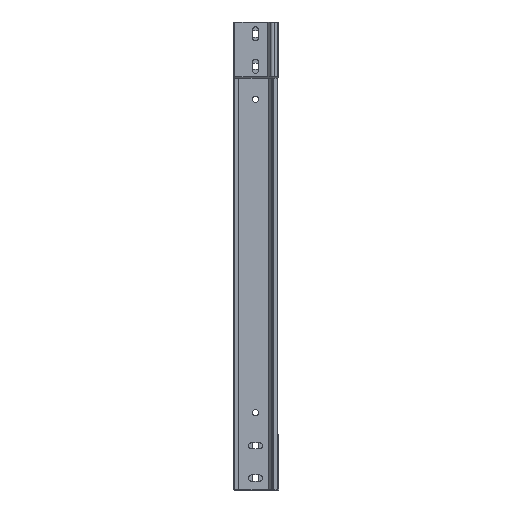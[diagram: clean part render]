
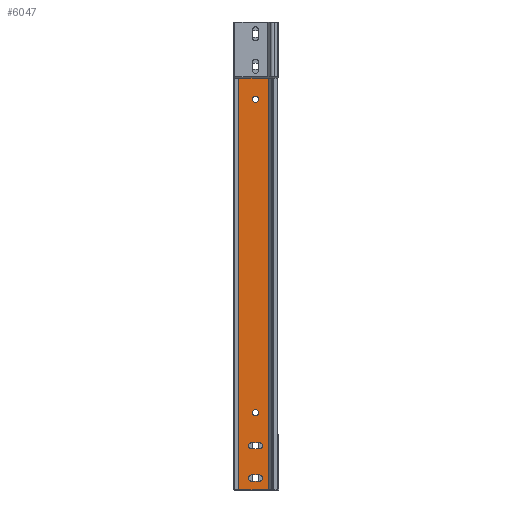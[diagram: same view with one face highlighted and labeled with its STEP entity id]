
A CAD part, left-side view. The second image highlights one B-rep face of the part: STEP entity #6047.
In plain terms, the highlighted planar face has unit normal (-1, 0, 0).
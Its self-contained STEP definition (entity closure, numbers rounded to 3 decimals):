
#5 = CARTESIAN_POINT ( 'NONE',  ( 0., 35.5, 574.5 ) ) ;
#75 = DIRECTION ( 'NONE',  ( 0., 0., -1. ) ) ;
#132 = VERTEX_POINT ( 'NONE', #4182 ) ;
#174 = VERTEX_POINT ( 'NONE', #3578 ) ;
#218 = CARTESIAN_POINT ( 'NONE',  ( 0., 24.5, 524. ) ) ;
#226 = VECTOR ( 'NONE', #4344, 1000. ) ;
#234 = ORIENTED_EDGE ( 'NONE', *, *, #7941, .F. ) ;
#299 = VERTEX_POINT ( 'NONE', #5331 ) ;
#368 = FACE_BOUND ( 'NONE', #2837, .T. ) ;
#529 = EDGE_CURVE ( 'NONE', #6815, #8743, #986, .T. ) ;
#543 = EDGE_LOOP ( 'NONE', ( #5223, #8787, #2479, #1040 ) ) ;
#633 = EDGE_CURVE ( 'NONE', #174, #6815, #4367, .T. ) ;
#718 = CARTESIAN_POINT ( 'NONE',  ( 0., 48.166, 587. ) ) ;
#732 = DIRECTION ( 'NONE',  ( 0., 1., 0. ) ) ;
#737 = CARTESIAN_POINT ( 'NONE',  ( 0., 30., 477. ) ) ;
#757 = EDGE_CURVE ( 'NONE', #8743, #901, #2130, .T. ) ;
#773 = DIRECTION ( 'NONE',  ( 0., -1., 0. ) ) ;
#795 = DIRECTION ( 'NONE',  ( 0., 0., -1. ) ) ;
#820 = CARTESIAN_POINT ( 'NONE',  ( 0., 0.5, 587. ) ) ;
#901 = VERTEX_POINT ( 'NONE', #2516 ) ;
#906 = ORIENTED_EDGE ( 'NONE', *, *, #7867, .F. ) ;
#917 = ORIENTED_EDGE ( 'NONE', *, *, #757, .F. ) ;
#986 = LINE ( 'NONE', #7702, #7059 ) ;
#1040 = ORIENTED_EDGE ( 'NONE', *, *, #4772, .F. ) ;
#1090 = VERTEX_POINT ( 'NONE', #4255 ) ;
#1180 = CARTESIAN_POINT ( 'NONE',  ( 0., 30., 34.5 ) ) ;
#1208 = LINE ( 'NONE', #5100, #4194 ) ;
#1315 = VERTEX_POINT ( 'NONE', #1361 ) ;
#1317 = AXIS2_PLACEMENT_3D ( 'NONE', #737, #2285, #5332 ) ;
#1361 = CARTESIAN_POINT ( 'NONE',  ( 0., 24.5, 519.5 ) ) ;
#1379 = VERTEX_POINT ( 'NONE', #7823 ) ;
#1383 = ORIENTED_EDGE ( 'NONE', *, *, #8543, .F. ) ;
#1453 = LINE ( 'NONE', #5, #226 ) ;
#1583 = EDGE_LOOP ( 'NONE', ( #5378, #906 ) ) ;
#1647 = CIRCLE ( 'NONE', #1317, 4.5 ) ;
#1858 = VECTOR ( 'NONE', #773, 1000. ) ;
#2079 = EDGE_CURVE ( 'NONE', #5832, #1379, #6338, .T. ) ;
#2130 = CIRCLE ( 'NONE', #8170, 4.5 ) ;
#2165 = EDGE_CURVE ( 'NONE', #2968, #5849, #5252, .T. ) ;
#2285 = DIRECTION ( 'NONE',  ( -1., 0., 0. ) ) ;
#2326 = DIRECTION ( 'NONE',  ( -1., 0., 0. ) ) ;
#2479 = ORIENTED_EDGE ( 'NONE', *, *, #2745, .F. ) ;
#2516 = CARTESIAN_POINT ( 'NONE',  ( 0., 24.5, 574.5 ) ) ;
#2616 = FACE_BOUND ( 'NONE', #543, .T. ) ;
#2619 = AXIS2_PLACEMENT_3D ( 'NONE', #4216, #7389, #3615 ) ;
#2686 = EDGE_CURVE ( 'NONE', #8277, #1379, #7536, .T. ) ;
#2718 = CARTESIAN_POINT ( 'NONE',  ( 0., 12.415, 0. ) ) ;
#2745 = EDGE_CURVE ( 'NONE', #1315, #132, #7152, .T. ) ;
#2801 = DIRECTION ( 'NONE',  ( 0., 0., 1. ) ) ;
#2837 = EDGE_LOOP ( 'NONE', ( #4276, #1383, #917, #9076 ) ) ;
#2968 = VERTEX_POINT ( 'NONE', #7175 ) ;
#3241 = DIRECTION ( 'NONE',  ( -1., 0., 0. ) ) ;
#3266 = CARTESIAN_POINT ( 'NONE',  ( 0., 48.166, 587. ) ) ;
#3366 = DIRECTION ( 'NONE',  ( -1., 0., 0. ) ) ;
#3418 = CARTESIAN_POINT ( 'NONE',  ( 0., 0., 587. ) ) ;
#3428 = CARTESIAN_POINT ( 'NONE',  ( 0., 0.5, 0. ) ) ;
#3578 = CARTESIAN_POINT ( 'NONE',  ( 0., 35.5, 574.5 ) ) ;
#3615 = DIRECTION ( 'NONE',  ( 0., 0., -1. ) ) ;
#3684 = CIRCLE ( 'NONE', #7960, 4.5 ) ;
#3934 = DIRECTION ( 'NONE',  ( 0., -1., 0. ) ) ;
#3946 = AXIS2_PLACEMENT_3D ( 'NONE', #4248, #9657, #5094 ) ;
#4182 = CARTESIAN_POINT ( 'NONE',  ( 0., 24.5, 528.5 ) ) ;
#4194 = VECTOR ( 'NONE', #8121, 1000. ) ;
#4205 = CARTESIAN_POINT ( 'NONE',  ( 0., 0., 587. ) ) ;
#4216 = CARTESIAN_POINT ( 'NONE',  ( 0., 35.5, 570. ) ) ;
#4217 = CARTESIAN_POINT ( 'NONE',  ( 0., 48.166, 0. ) ) ;
#4248 = CARTESIAN_POINT ( 'NONE',  ( 0., 30., 477. ) ) ;
#4255 = CARTESIAN_POINT ( 'NONE',  ( 0., 35.5, 528.5 ) ) ;
#4276 = ORIENTED_EDGE ( 'NONE', *, *, #633, .F. ) ;
#4344 = DIRECTION ( 'NONE',  ( 0., 1., 0. ) ) ;
#4367 = CIRCLE ( 'NONE', #2619, 4.5 ) ;
#4472 = DIRECTION ( 'NONE',  ( -1., 0., 0. ) ) ;
#4564 = CARTESIAN_POINT ( 'NONE',  ( 0., 35.5, 519.5 ) ) ;
#4735 = ORIENTED_EDGE ( 'NONE', *, *, #2165, .F. ) ;
#4754 = VERTEX_POINT ( 'NONE', #820 ) ;
#4772 = EDGE_CURVE ( 'NONE', #4823, #1315, #8331, .T. ) ;
#4823 = VERTEX_POINT ( 'NONE', #5554 ) ;
#4878 = ORIENTED_EDGE ( 'NONE', *, *, #6137, .F. ) ;
#4989 = EDGE_CURVE ( 'NONE', #299, #8287, #8221, .T. ) ;
#5065 = LINE ( 'NONE', #6755, #8753 ) ;
#5087 = AXIS2_PLACEMENT_3D ( 'NONE', #8979, #4472, #6845 ) ;
#5094 = DIRECTION ( 'NONE',  ( 0., 0., 1. ) ) ;
#5100 = CARTESIAN_POINT ( 'NONE',  ( 0., 0.5, 587. ) ) ;
#5164 = CARTESIAN_POINT ( 'NONE',  ( 0., 24.332, 0. ) ) ;
#5223 = ORIENTED_EDGE ( 'NONE', *, *, #9141, .F. ) ;
#5252 = CIRCLE ( 'NONE', #5087, 4.5 ) ;
#5331 = CARTESIAN_POINT ( 'NONE',  ( 0., 30., 481.5 ) ) ;
#5332 = DIRECTION ( 'NONE',  ( 0., 0., 1. ) ) ;
#5378 = ORIENTED_EDGE ( 'NONE', *, *, #4989, .F. ) ;
#5541 = CARTESIAN_POINT ( 'NONE',  ( 0., 24.5, 565.5 ) ) ;
#5554 = CARTESIAN_POINT ( 'NONE',  ( 0., 35.5, 519.5 ) ) ;
#5601 = FACE_BOUND ( 'NONE', #1583, .T. ) ;
#5790 = FACE_BOUND ( 'NONE', #6207, .T. ) ;
#5832 = VERTEX_POINT ( 'NONE', #3428 ) ;
#5849 = VERTEX_POINT ( 'NONE', #1180 ) ;
#5959 = ORIENTED_EDGE ( 'NONE', *, *, #9769, .T. ) ;
#6047 = ADVANCED_FACE ( 'NONE', ( #5790, #5601, #2616, #368, #6437 ), #8714, .T. ) ;
#6137 = EDGE_CURVE ( 'NONE', #5849, #2968, #3684, .T. ) ;
#6207 = EDGE_LOOP ( 'NONE', ( #4735, #4878 ) ) ;
#6338 = B_SPLINE_CURVE_WITH_KNOTS ( 'NONE', 3,
 ( #8826, #6642, #2718, #5164, #7442, #7338, #4217 ),
 .UNSPECIFIED., .F., .F.,
 ( 4, 1, 1, 1, 4 ),
 ( 0., 0.25, 0.5, 0.75, 1. ),
 .UNSPECIFIED. ) ;
#6437 = FACE_OUTER_BOUND ( 'NONE', #6853, .T. ) ;
#6440 = DIRECTION ( 'NONE',  ( 0., 1., 0. ) ) ;
#6642 = CARTESIAN_POINT ( 'NONE',  ( 0., 4.471, 0. ) ) ;
#6736 = EDGE_CURVE ( 'NONE', #132, #1090, #5065, .T. ) ;
#6755 = CARTESIAN_POINT ( 'NONE',  ( 0., 35.5, 528.5 ) ) ;
#6815 = VERTEX_POINT ( 'NONE', #9140 ) ;
#6845 = DIRECTION ( 'NONE',  ( 0., 0., 1. ) ) ;
#6853 = EDGE_LOOP ( 'NONE', ( #7303, #234, #5959, #9689 ) ) ;
#6874 = AXIS2_PLACEMENT_3D ( 'NONE', #7651, #3241, #795 ) ;
#7059 = VECTOR ( 'NONE', #3934, 1000. ) ;
#7076 = DIRECTION ( 'NONE',  ( 0., 0., 1. ) ) ;
#7152 = CIRCLE ( 'NONE', #8890, 4.5 ) ;
#7175 = CARTESIAN_POINT ( 'NONE',  ( 0., 30., 25.5 ) ) ;
#7278 = DIRECTION ( 'NONE',  ( 0., 0., 1. ) ) ;
#7303 = ORIENTED_EDGE ( 'NONE', *, *, #2079, .F. ) ;
#7338 = CARTESIAN_POINT ( 'NONE',  ( 0., 44.194, 0. ) ) ;
#7389 = DIRECTION ( 'NONE',  ( -1., 0., 0. ) ) ;
#7442 = CARTESIAN_POINT ( 'NONE',  ( 0., 36.25, 0. ) ) ;
#7536 = LINE ( 'NONE', #718, #8257 ) ;
#7651 = CARTESIAN_POINT ( 'NONE',  ( 0., 35.5, 524. ) ) ;
#7671 = CARTESIAN_POINT ( 'NONE',  ( 0., 30., 472.5 ) ) ;
#7680 = VECTOR ( 'NONE', #6440, 1000. ) ;
#7702 = CARTESIAN_POINT ( 'NONE',  ( 0., 35.5, 565.5 ) ) ;
#7823 = CARTESIAN_POINT ( 'NONE',  ( 0., 48.166, 0. ) ) ;
#7839 = LINE ( 'NONE', #3418, #7680 ) ;
#7867 = EDGE_CURVE ( 'NONE', #8287, #299, #1647, .T. ) ;
#7941 = EDGE_CURVE ( 'NONE', #4754, #5832, #1208, .T. ) ;
#7960 = AXIS2_PLACEMENT_3D ( 'NONE', #8220, #9611, #2801 ) ;
#7967 = DIRECTION ( 'NONE',  ( -1., 0., 0. ) ) ;
#8121 = DIRECTION ( 'NONE',  ( 0., 0., -1. ) ) ;
#8170 = AXIS2_PLACEMENT_3D ( 'NONE', #9133, #2326, #8339 ) ;
#8220 = CARTESIAN_POINT ( 'NONE',  ( 0., 30., 30. ) ) ;
#8221 = CIRCLE ( 'NONE', #3946, 4.5 ) ;
#8257 = VECTOR ( 'NONE', #75, 1000. ) ;
#8277 = VERTEX_POINT ( 'NONE', #3266 ) ;
#8287 = VERTEX_POINT ( 'NONE', #7671 ) ;
#8331 = LINE ( 'NONE', #4564, #1858 ) ;
#8339 = DIRECTION ( 'NONE',  ( 0., 0., 1. ) ) ;
#8543 = EDGE_CURVE ( 'NONE', #901, #174, #1453, .T. ) ;
#8714 = PLANE ( 'NONE',  #9550 ) ;
#8743 = VERTEX_POINT ( 'NONE', #5541 ) ;
#8753 = VECTOR ( 'NONE', #732, 1000. ) ;
#8787 = ORIENTED_EDGE ( 'NONE', *, *, #6736, .F. ) ;
#8826 = CARTESIAN_POINT ( 'NONE',  ( 0., 0.5, 0. ) ) ;
#8890 = AXIS2_PLACEMENT_3D ( 'NONE', #218, #3366, #7076 ) ;
#8979 = CARTESIAN_POINT ( 'NONE',  ( 0., 30., 30. ) ) ;
#9076 = ORIENTED_EDGE ( 'NONE', *, *, #529, .F. ) ;
#9090 = CIRCLE ( 'NONE', #6874, 4.5 ) ;
#9133 = CARTESIAN_POINT ( 'NONE',  ( 0., 24.5, 570. ) ) ;
#9140 = CARTESIAN_POINT ( 'NONE',  ( 0., 35.5, 565.5 ) ) ;
#9141 = EDGE_CURVE ( 'NONE', #1090, #4823, #9090, .T. ) ;
#9550 = AXIS2_PLACEMENT_3D ( 'NONE', #4205, #7967, #7278 ) ;
#9611 = DIRECTION ( 'NONE',  ( -1., 0., 0. ) ) ;
#9657 = DIRECTION ( 'NONE',  ( -1., 0., 0. ) ) ;
#9689 = ORIENTED_EDGE ( 'NONE', *, *, #2686, .T. ) ;
#9769 = EDGE_CURVE ( 'NONE', #4754, #8277, #7839, .T. ) ;
